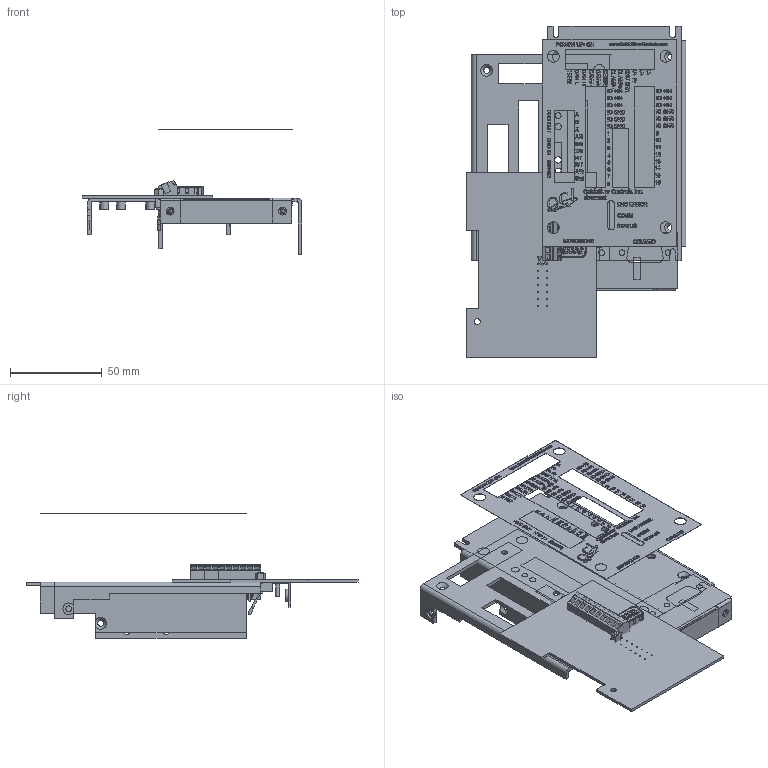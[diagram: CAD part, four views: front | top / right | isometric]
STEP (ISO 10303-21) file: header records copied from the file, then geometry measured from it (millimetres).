
FILE_DESCRIPTION(/* description */ ('Alibre Inc.'),/* implementation_level */ '2;1');
FILE_NAME(/* name */ 'export0',/* time_stamp */ '2008-03-20T09:39:13-07:00',/* author */ (''),/* organization */ (''),/* preprocessor_version */ 'ST-DEVELOPER v10',/* originating_system */ 'Alibre',/* authorisation */ '');
FILE_SCHEMA (('ALIBRE_SCHEMA','CONFIG_CONTROL_DESIGN'));
Products named in the file (20): ID_1
Bounding box: 119.42 x 180.48 x 67.94 mm (x, y, z)
Volume: 76956.1 mm3; surface area: 105284.8 mm2
Topology: 307 solids, 307 shells, 6479 faces, 16275 edges, 10716 vertices
Faces by surface type: plane 3764, bspline 1698, cylinder 873, torus 128, cone 15, revolution 1
Full cylindrical faces by diameter (mm): 0.602 x16, 2.184 x2, 2.489 x1, 2.616 x7, 2.647 x6, 2.692 x12, 2.743 x24, 2.87 x1, 3.175 x26, 3.195 x2, 3.505 x4, 3.556 x1, 4.191 x12, 4.75 x12, 6.35 x17, 6.653 x3
Entity records: 435591 total; most frequent: CARTESIAN_POINT 170632, ORIENTED_EDGE 41046, DIRECTION 30046, EDGE_CURVE 20523, VECTOR 16558, LINE 15382, PERSISTANTTOPOLOGYATTRIBUTE 13558, VERTEX_POINT 13512
